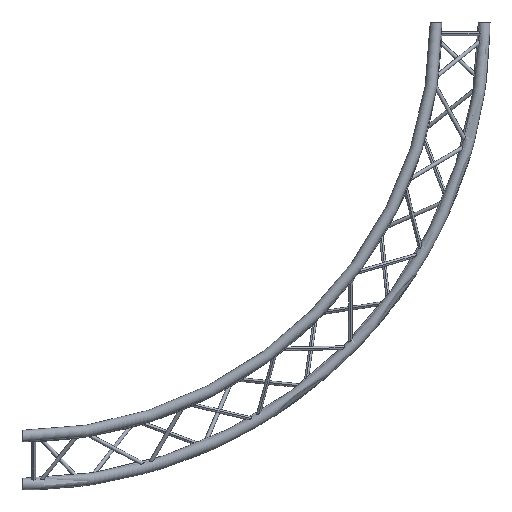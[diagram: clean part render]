
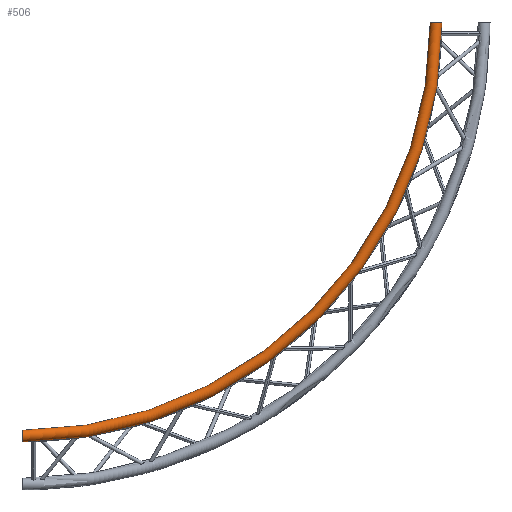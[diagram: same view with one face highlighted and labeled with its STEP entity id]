
A CAD part, front view. The second image highlights one B-rep face of the part: STEP entity #506.
In plain terms, the highlighted toroidal (fillet/blend) face has major radius 1769.75 mm and minor radius 25 mm.
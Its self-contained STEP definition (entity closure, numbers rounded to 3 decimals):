
#487 = EDGE_CURVE ( 'NONE', #497, #496, #4961, .T. ) ;
#490 = EDGE_CURVE ( 'NONE', #497, #493, #4955, .T. ) ;
#491 = ORIENTED_EDGE ( 'NONE', *, *, #492, .T. ) ;
#492 = EDGE_CURVE ( 'NONE', #493, #499, #4946, .T. ) ;
#493 = VERTEX_POINT ( 'NONE', #4941 ) ;
#494 = ORIENTED_EDGE ( 'NONE', *, *, #495, .F. ) ;
#495 = EDGE_CURVE ( 'NONE', #496, #499, #4940, .T. ) ;
#496 = VERTEX_POINT ( 'NONE', #4996 ) ;
#497 = VERTEX_POINT ( 'NONE', #4995 ) ;
#498 = ORIENTED_EDGE ( 'NONE', *, *, #487, .F. ) ;
#499 = VERTEX_POINT ( 'NONE', #4994 ) ;
#503 = EDGE_LOOP ( 'NONE', ( #507, #491, #494, #498 ) ) ;
#506 = ADVANCED_FACE ( 'NONE', ( #4981 ), #4980, .T. ) ;
#507 = ORIENTED_EDGE ( 'NONE', *, *, #490, .T. ) ;
#4937 = DIRECTION ( 'NONE',  ( 0., 0., 1. ) ) ;
#4938 = CARTESIAN_POINT ( 'NONE',  ( 1769.752, -118.5, 0. ) ) ;
#4939 = AXIS2_PLACEMENT_3D ( 'NONE', #4938, #4937, #4997 ) ;
#4940 = CIRCLE ( 'NONE', #4939, 25. ) ;
#4941 = CARTESIAN_POINT ( 'NONE',  ( 0., -118.5, -1794.752 ) ) ;
#4942 = DIRECTION ( 'NONE',  ( 0., 0., -1. ) ) ;
#4943 = DIRECTION ( 'NONE',  ( 0., -1., 0. ) ) ;
#4944 = CARTESIAN_POINT ( 'NONE',  ( 0., -118.5, 0. ) ) ;
#4945 = AXIS2_PLACEMENT_3D ( 'NONE', #4944, #4943, #4942 ) ;
#4946 = CIRCLE ( 'NONE', #4945, 1794.752 ) ;
#4947 = DIRECTION ( 'NONE',  ( 0., 0., -1. ) ) ;
#4948 = DIRECTION ( 'NONE',  ( 1., 0., 0. ) ) ;
#4949 = CARTESIAN_POINT ( 'NONE',  ( 0., -118.5, -1769.752 ) ) ;
#4950 = AXIS2_PLACEMENT_3D ( 'NONE', #4949, #4948, #4947 ) ;
#4955 = CIRCLE ( 'NONE', #4950, 25. ) ;
#4957 = DIRECTION ( 'NONE',  ( 0., 0., -1. ) ) ;
#4958 = DIRECTION ( 'NONE',  ( 0., -1., 0. ) ) ;
#4959 = CARTESIAN_POINT ( 'NONE',  ( 0., -118.5, 0. ) ) ;
#4960 = AXIS2_PLACEMENT_3D ( 'NONE', #4959, #4958, #4957 ) ;
#4961 = CIRCLE ( 'NONE', #4960, 1744.752 ) ;
#4975 = DIRECTION ( 'NONE',  ( 0., 0., -1. ) ) ;
#4976 = DIRECTION ( 'NONE',  ( 0., -1., 0. ) ) ;
#4977 = AXIS2_PLACEMENT_3D ( 'NONE', #4979, #4976, #4975 ) ;
#4979 = CARTESIAN_POINT ( 'NONE',  ( 0., -118.5, 0. ) ) ;
#4980 = TOROIDAL_SURFACE ( 'NONE', #4977, 1769.752, 25. ) ;
#4981 = FACE_OUTER_BOUND ( 'NONE', #503, .T. ) ;
#4994 = CARTESIAN_POINT ( 'NONE',  ( 1794.752, -118.5, 0. ) ) ;
#4995 = CARTESIAN_POINT ( 'NONE',  ( 0., -118.5, -1744.752 ) ) ;
#4996 = CARTESIAN_POINT ( 'NONE',  ( 1744.752, -118.5, 0. ) ) ;
#4997 = DIRECTION ( 'NONE',  ( 1., 0., 0. ) ) ;
